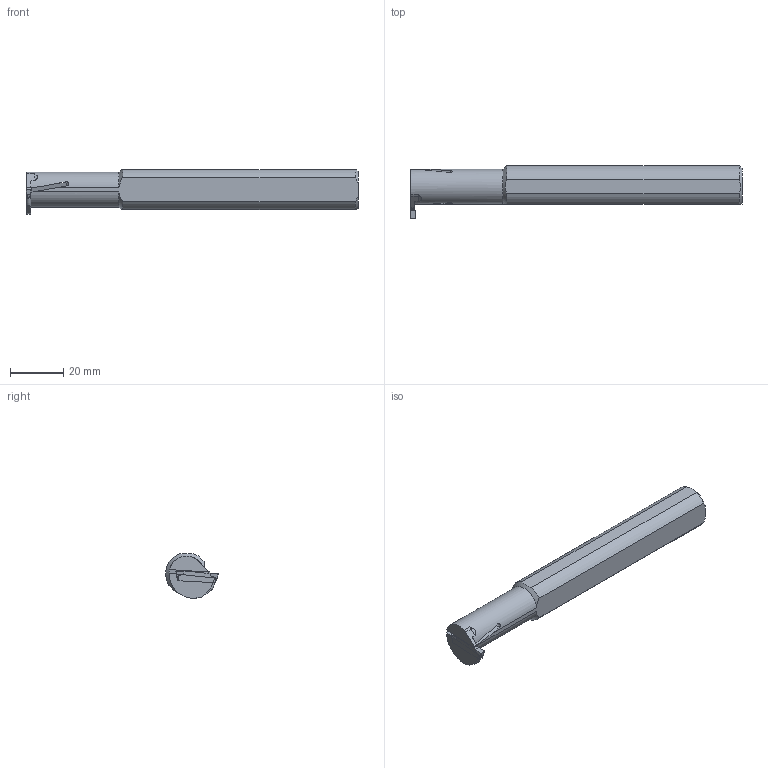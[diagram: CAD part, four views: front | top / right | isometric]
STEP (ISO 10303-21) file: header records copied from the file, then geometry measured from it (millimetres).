
FILE_DESCRIPTION(/* description */ (''),/* implementation_level */ '2;1');
FILE_NAME(/* name */ 'MGIVR12-10-2-HAAS.stp',/* time_stamp */ '2020-11-06T16:42:43+09:00',/* author */ (''),/* organization */ (''),/* preprocessor_version */ 'ST-DEVELOPER v11',/* originating_system */ 'SIEMENS UGS NX 6.0',/* authorisation */ '');
FILE_SCHEMA (('CONFIG_CONTROL_DESIGN'));
Length unit declared in the file: millimetre
Products named in the file (1): userB0F4co68
Bounding box: 125 x 19.86 x 16.77 mm (x, y, z)
Volume: 19276.4 mm3; surface area: 8502.5 mm2
Topology: 2 solids, 4 shells, 74 faces, 193 edges, 127 vertices
Faces by surface type: plane 44, cylinder 23, cone 3, bspline 2, torus 2
Full cylindrical faces by diameter (mm): 5 x1
Entity records: 2525 total; most frequent: CARTESIAN_POINT 637, ORIENTED_EDGE 380, DIRECTION 363, EDGE_CURVE 190, VERTEX_POINT 128, AXIS2_PLACEMENT_3D 126, LINE 111, VECTOR 111
